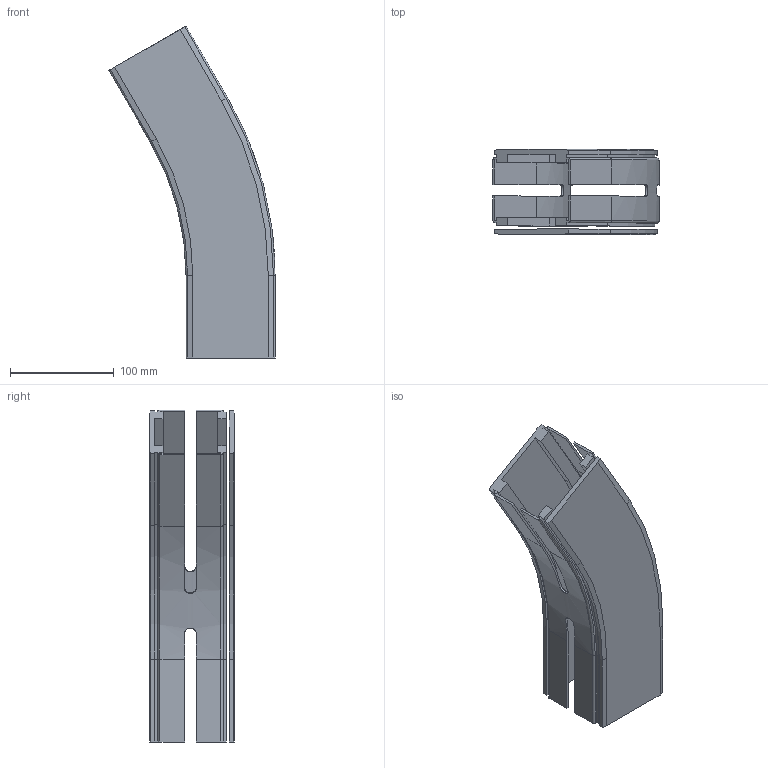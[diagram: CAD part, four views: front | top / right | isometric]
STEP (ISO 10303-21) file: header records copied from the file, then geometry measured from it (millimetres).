
FILE_DESCRIPTION(/* description */ ('GLIDKURVA SERIE 530'),/* implementation_level */ '2;1');
FILE_NAME(/* name */ '530-5375+830-2000-01.stp',/* time_stamp */ '2022-09-20T14:55:39+02:00',/* author */ ('Mathias.Dore'),/* organization */ ('CARRYLINE'),/* preprocessor_version */ 'ST-DEVELOPER v19.2',/* originating_system */ 'Autodesk Inventor 2023',/* authorisation */ '');
FILE_SCHEMA (('AUTOMOTIVE_DESIGN { 1 0 10303 214 3 1 1 }'));
Length unit declared in the file: millimetre
Products named in the file (1): 530-5375+830-2000-01
Bounding box: 160.43 x 82 x 320.78 mm (x, y, z)
Volume: 458635 mm3; surface area: 221037.4 mm2
Topology: 2 solids, 2 shells, 167 faces, 458 edges, 300 vertices
Faces by surface type: plane 113, cylinder 28, bspline 18, torus 4, cone 4
Entity records: 5633 total; most frequent: CARTESIAN_POINT 1340, ORIENTED_EDGE 916, DIRECTION 802, EDGE_CURVE 458, LINE 342, VECTOR 342, VERTEX_POINT 300, AXIS2_PLACEMENT_3D 230
